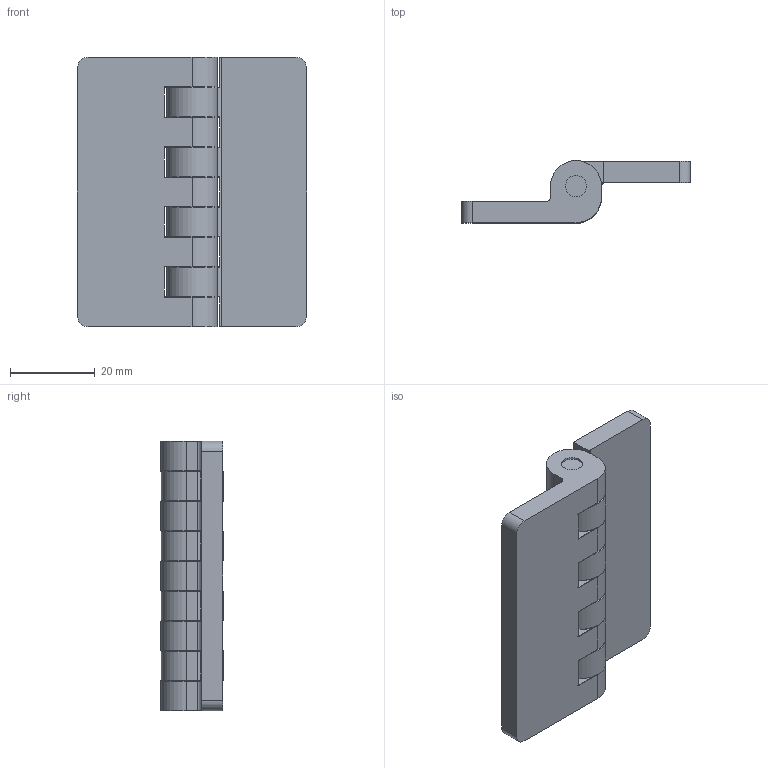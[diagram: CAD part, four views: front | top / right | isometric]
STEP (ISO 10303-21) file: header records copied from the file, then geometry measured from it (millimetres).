
FILE_DESCRIPTION((''),'2;1');
FILE_NAME('6534.stp','2012-09-10T15:01:31',(''),(''),'Mechanical Desktop 2006','Mechanical Desktop 2006',', , ');
FILE_SCHEMA(('CONFIG_CONTROL_DESIGN'));
Length unit declared in the file: millimetre
Products named in the file (3): 6534; TEIL1; TEIL2
Assembly tree (2 placements, depth 2):
  6534
    TEIL1
    TEIL2
Bounding box: 54 x 14.7 x 63.5 mm (x, y, z)
Volume: 22796.9 mm3; surface area: 12500.5 mm2
Topology: 2 solids, 2 shells, 234 faces, 609 edges, 381 vertices
Faces by surface type: cylinder 134, plane 55, torus 45
Entity records: 7862 total; most frequent: CARTESIAN_POINT 1722, DIRECTION 1397, ORIENTED_EDGE 1218, EDGE_CURVE 609, AXIS2_PLACEMENT_3D 566, VERTEX_POINT 381, CIRCLE 329, VECTOR 265
